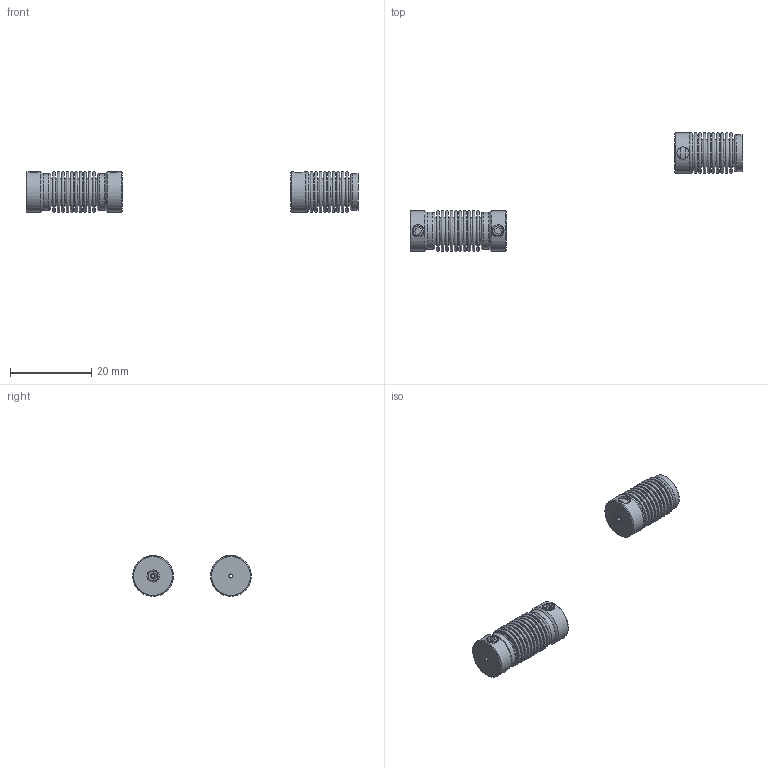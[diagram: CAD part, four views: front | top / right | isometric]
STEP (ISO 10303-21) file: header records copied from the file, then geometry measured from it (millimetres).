
FILE_DESCRIPTION( ( 'Unknown' ), '1' );
FILE_NAME( 'C:/Dokumente und Einstellungen/Sven/Desktop/cad - homepage/KB1/KB1-1-23.stp', 'Unknown', ( 'Unknown' ), ( 'Unknown' ), 'XStep 1.0', 'Unknown', ' ' );
FILE_SCHEMA( ( 'automotive_design' ) );
Length unit declared in the file: millimetre
Products named in the file (4): Assem1; Socket Set Screw Cup Point_DIN_DIN 916 - M3 x 4-N; MN1_Standard; BM1_Standard
Bounding box: 81.75 x 29.17 x 10 mm (x, y, z)
Volume: 1502.7 mm3; surface area: 6217.7 mm2
Topology: 8 solids, 8 shells, 261 faces, 467 edges, 304 vertices
Faces by surface type: plane 128, torus 92, cylinder 23, cone 18
Full cylindrical faces by diameter (mm): 1 x3, 3 x6, 8.9 x7, 9.1 x4, 10 x3
Entity records: 2715 total; most frequent: DIRECTION 490, CARTESIAN_POINT 451, ORIENTED_EDGE 266, AXIS2_PLACEMENT_3D 235, EDGE_LOOP 230, FACE_OUTER_BOUND 174, EDGE_CURVE 133, VERTEX_POINT 126
